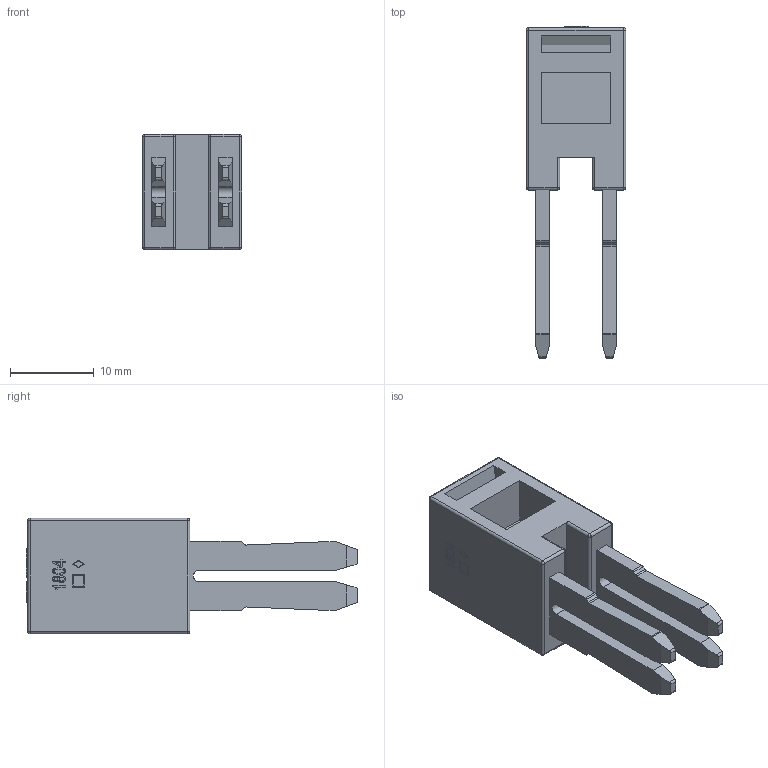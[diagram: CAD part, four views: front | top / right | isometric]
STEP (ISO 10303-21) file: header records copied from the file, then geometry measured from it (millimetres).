
FILE_DESCRIPTION (( 'STEP AP203' ), '1' );
FILE_NAME ('ìîñòèê ñîåäèíèòåëüíûé â ñáîðå.STEP', '2021-10-06T06:01:06', ( '' ), ( '' ), 'SwSTEP 2.0', 'SolidWorks 2016', '' );
FILE_SCHEMA (( 'CONFIG_CONTROL_DESIGN' ));
Length unit declared in the file: millimetre
Products named in the file (3): 麧謷.膰艜魛蠉; ìîñòèê ñîåäèíèòåëüíûé â ñáîðå; Êîíòàêò ìîñòèêà ñîåäèíèòåëüíîãî
Assembly tree (2 placements, depth 2):
  ìîñòèê ñîåäèíèòåëüíûé â ñáîðå
    麧謷.膰艜魛蠉
    Êîíòàêò ìîñòèêà ñîåäèíèòåëüíîãî
Bounding box: 11.9 x 39.7 x 13.8 mm (x, y, z)
Volume: 2652.9 mm3; surface area: 3572.1 mm2
Topology: 2 solids, 2 shells, 400 faces, 1064 edges, 684 vertices
Faces by surface type: plane 286, cylinder 54, bspline 48, sphere 12
Entity records: 15049 total; most frequent: CARTESIAN_POINT 5149, ORIENTED_EDGE 2104, DIRECTION 1762, EDGE_CURVE 1052, LINE 832, VECTOR 832, VERTEX_POINT 684, AXIS2_PLACEMENT_3D 465
